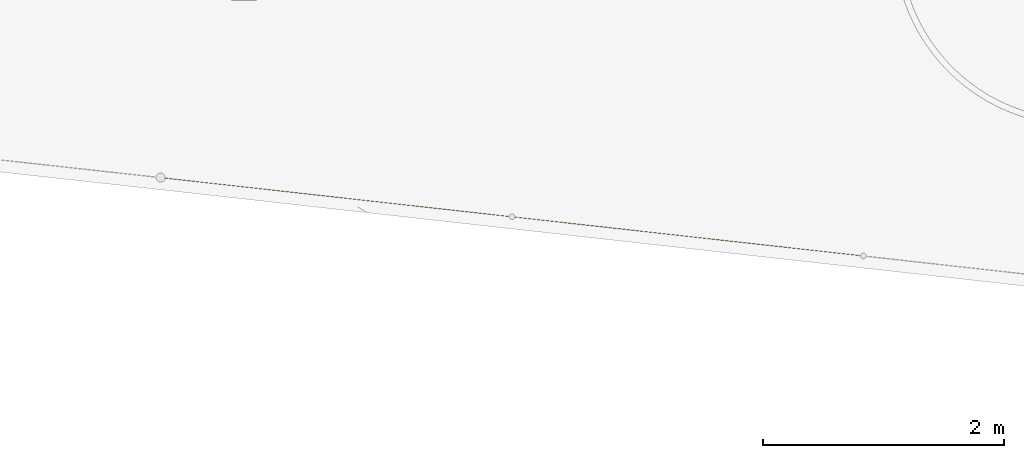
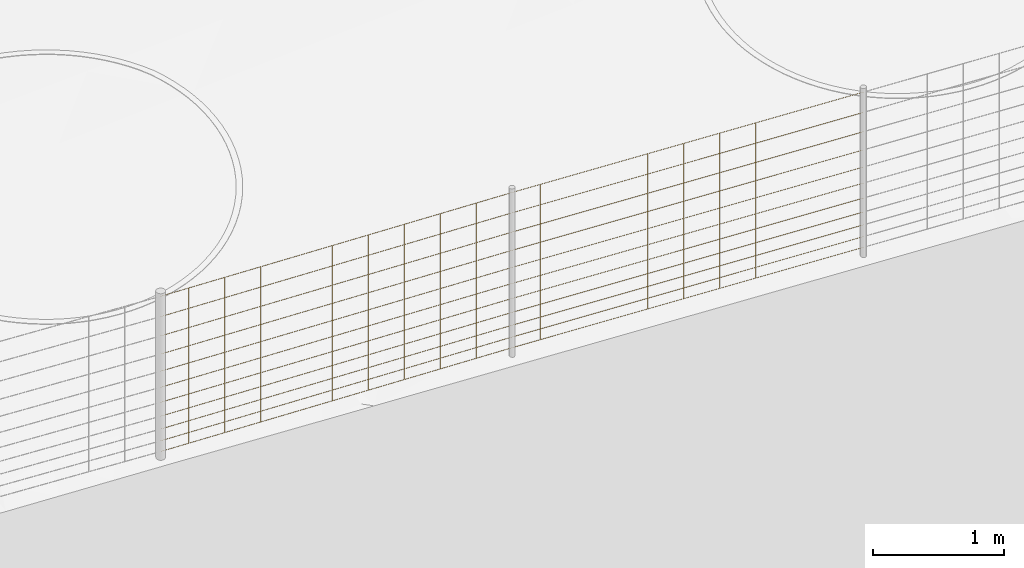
# Not in any storey, part 36 of 72: 2 railings.
"""IFC4 model written with IfcOpenShell, lengths in metres."""

from ifc_helpers import new_model, si_unit, direction, frame, origin_with_axes, place, context, subcontext, project, spatial, polygons, material, element, save


model = new_model("IFC4")

# Units and contexts
model_context = context("Model", 3, precision=1e-05, world=origin_with_axes(), true_north=direction((0.0, 1.0)))
body_context = subcontext(model_context, "Body", "Model", "MODEL_VIEW")
ifc_project = project(units=[si_unit("AREAUNIT", "SQUARE_METRE"), si_unit("VOLUMEUNIT", "CUBIC_METRE"), si_unit("LENGTHUNIT", "METRE")], contexts=[model_context])

# Site
site_placement = place(None, origin_with_axes())
site = spatial("IfcSite", under=ifc_project, at=site_placement, Name="Lares · Rua das Mercês · artigo 4771")

# Railings
ifc_material = material(Name="Aço galvanizado / Stahl verzinkt", Category="steel")
railing_1_placement = place(site_placement, frame((0.0, 0.0, 0.0), z_axis=(0.0, 0.0, 1.0), x_axis=(1.0, -1.03767253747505e-17, 0.0)))
element("IfcRailing", 1, at=railing_1_placement, inside=site, material=ifc_material, Name="Vedação · rede ovelheira 1.025", ObjectType="SHEEP_WIRE_FENCE", PredefinedType="USERDEFINED", context=body_context, shape_type="Tessellation", body=[
    polygons([(29.2923200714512, -0.365660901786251, 12.8845290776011), (29.2922117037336, -0.367158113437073, 12.8830302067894), (29.2919876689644, -0.368642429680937, 12.8845290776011), (29.2920960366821, -0.367145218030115, 12.8860279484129), (26.3756527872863, -0.0404895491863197, 12.7705914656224), (26.3755444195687, -0.0419867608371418, 12.7690925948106), (26.3753203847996, -0.0434710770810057, 12.7705914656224), (26.3754287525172, -0.0419738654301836, 12.7720903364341), (29.2923200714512, -0.365660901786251, 12.9845290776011), (29.2922117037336, -0.367158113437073, 12.9830302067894), (29.2919876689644, -0.368642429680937, 12.9845290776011), (29.2920960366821, -0.367145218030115, 12.9860279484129), (26.3756527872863, -0.0404895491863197, 12.8705914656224), (26.3755444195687, -0.0419867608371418, 12.8690925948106), (26.3753203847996, -0.0434710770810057, 12.8705914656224), (26.3754287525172, -0.0419738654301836, 12.8720903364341), (29.2923200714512, -0.365660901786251, 13.0945290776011), (29.2922117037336, -0.367158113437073, 13.0930302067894), (29.2919876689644, -0.368642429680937, 13.0945290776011), (29.2920960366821, -0.367145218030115, 13.0960279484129), (26.3756527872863, -0.0404895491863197, 12.9805914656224), (26.3755444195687, -0.0419867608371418, 12.9790925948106), (26.3753203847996, -0.0434710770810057, 12.9805914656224), (26.3754287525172, -0.0419738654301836, 12.9820903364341), (29.2923200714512, -0.365660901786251, 13.2145290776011), (29.2922117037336, -0.367158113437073, 13.2130302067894), (29.2919876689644, -0.368642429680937, 13.2145290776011), (29.2920960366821, -0.367145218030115, 13.2160279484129), (26.3756527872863, -0.0404895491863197, 13.1005914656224), (26.3755444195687, -0.0419867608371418, 13.0990925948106), (26.3753203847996, -0.0434710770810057, 13.1005914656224), (26.3754287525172, -0.0419738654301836, 13.1020903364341), (29.2923200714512, -0.365660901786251, 13.3445290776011), (29.2922117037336, -0.367158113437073, 13.3430302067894), (29.2919876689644, -0.368642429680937, 13.3445290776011), (29.2920960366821, -0.367145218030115, 13.3460279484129), (26.3756527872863, -0.0404895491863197, 13.2305914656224), (26.3755444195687, -0.0419867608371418, 13.2290925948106), (26.3753203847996, -0.0434710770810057, 13.2305914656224), (26.3754287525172, -0.0419738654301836, 13.2320903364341), (29.2923200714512, -0.365660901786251, 13.4845290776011), (29.2922117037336, -0.367158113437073, 13.4830302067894), (29.2919876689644, -0.368642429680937, 13.4845290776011), (29.2920960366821, -0.367145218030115, 13.4860279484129), (26.3756527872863, -0.0404895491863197, 13.3705914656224), (26.3755444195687, -0.0419867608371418, 13.3690925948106), (26.3753203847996, -0.0434710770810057, 13.3705914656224), (26.3754287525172, -0.0419738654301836, 13.3720903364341), (29.2923200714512, -0.365660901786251, 13.6345290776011), (29.2922117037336, -0.367158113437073, 13.6330302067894), (29.2919876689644, -0.368642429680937, 13.6345290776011), (29.2920960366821, -0.367145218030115, 13.6360279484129), (26.3756527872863, -0.0404895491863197, 13.5205914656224), (26.3755444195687, -0.0419867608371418, 13.5190925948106), (26.3753203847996, -0.0434710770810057, 13.5205914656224), (26.3754287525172, -0.0419738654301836, 13.5220903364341), (29.2923200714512, -0.365660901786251, 13.7945290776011), (29.2922117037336, -0.367158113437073, 13.7930302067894), (29.2919876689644, -0.368642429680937, 13.7945290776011), (29.2920960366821, -0.367145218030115, 13.7960279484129), (26.3756527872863, -0.0404895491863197, 13.6805914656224), (26.3755444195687, -0.0419867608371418, 13.6790925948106), (26.3753203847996, -0.0434710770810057, 13.6805914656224), (26.3754287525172, -0.0419738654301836, 13.6820903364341), (29.2923200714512, -0.365660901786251, 13.9645290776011), (29.2922117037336, -0.367158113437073, 13.9630302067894), (29.2919876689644, -0.368642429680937, 13.9645290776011), (29.2920960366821, -0.367145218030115, 13.9660279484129), (26.3756527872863, -0.0404895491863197, 13.8505914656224), (26.3755444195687, -0.0419867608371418, 13.8490925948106), (26.3753203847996, -0.0434710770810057, 13.8505914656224), (26.3754287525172, -0.0419738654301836, 13.8520903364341), (29.2923200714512, -0.365660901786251, 14.1445290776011), (29.2922117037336, -0.367158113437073, 14.1430302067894), (29.2919876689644, -0.368642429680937, 14.1445290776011), (29.2920960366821, -0.367145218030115, 14.1460279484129), (26.3756527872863, -0.0404895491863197, 14.0305914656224), (26.3755444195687, -0.0419867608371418, 14.0290925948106), (26.3753203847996, -0.0434710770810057, 14.0305914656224), (26.3754287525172, -0.0419738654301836, 14.0320903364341), (29.2923200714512, -0.365660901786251, 14.3345290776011), (29.2922117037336, -0.367158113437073, 14.3330302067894), (29.2919876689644, -0.368642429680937, 14.3345290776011), (29.2920960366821, -0.367145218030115, 14.3360279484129), (26.3756527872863, -0.0404895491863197, 14.2205914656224), (26.3755444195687, -0.0419867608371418, 14.2190925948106), (26.3753203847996, -0.0434710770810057, 14.2205914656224), (26.3754287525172, -0.0419738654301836, 14.2220903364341), (28.9940010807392, -0.332411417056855, 12.8728819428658), (28.9925010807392, -0.333911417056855, 12.8728819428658), (28.9940010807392, -0.335411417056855, 12.8728819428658), (28.9955010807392, -0.333911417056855, 12.8728819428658), (28.9940010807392, -0.332411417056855, 14.3228819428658), (28.9925010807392, -0.333911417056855, 14.3228819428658), (28.9940010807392, -0.335411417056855, 14.3228819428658), (28.9955010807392, -0.333911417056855, 14.3228819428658), (28.6958482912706, -0.299171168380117, 12.8612348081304), (28.6943482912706, -0.300671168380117, 12.8612348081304), (28.6958482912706, -0.302171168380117, 12.8612348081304), (28.6973482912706, -0.300671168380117, 12.8612348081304), (28.6958482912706, -0.299171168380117, 14.3112348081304), (28.6943482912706, -0.300671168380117, 14.3112348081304), (28.6958482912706, -0.302171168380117, 14.3112348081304), (28.6973482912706, -0.300671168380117, 14.3112348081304), (28.397695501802, -0.265930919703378, 12.8495876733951), (28.396195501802, -0.267430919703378, 12.8495876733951), (28.397695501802, -0.268930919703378, 12.8495876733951), (28.399195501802, -0.267430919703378, 12.8495876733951), (28.397695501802, -0.265930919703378, 14.2995876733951), (28.396195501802, -0.267430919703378, 14.2995876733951), (28.397695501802, -0.268930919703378, 14.2995876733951), (28.399195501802, -0.267430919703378, 14.2995876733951), (28.0995427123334, -0.232690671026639, 12.8379405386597), (28.0980427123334, -0.234190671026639, 12.8379405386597), (28.0995427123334, -0.235690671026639, 12.8379405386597), (28.1010427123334, -0.234190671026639, 12.8379405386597), (28.0995427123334, -0.232690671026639, 14.2879405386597), (28.0980427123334, -0.234190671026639, 14.2879405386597), (28.0995427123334, -0.235690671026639, 14.2879405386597), (28.1010427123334, -0.234190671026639, 14.2879405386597), (27.8013899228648, -0.1994504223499, 12.8262934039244), (27.7998899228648, -0.2009504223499, 12.8262934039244), (27.8013899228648, -0.2024504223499, 12.8262934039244), (27.8028899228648, -0.2009504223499, 12.8262934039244), (27.8013899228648, -0.1994504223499, 14.2762934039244), (27.7998899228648, -0.2009504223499, 14.2762934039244), (27.8013899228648, -0.2024504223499, 14.2762934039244), (27.8028899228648, -0.2009504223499, 14.2762934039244), (27.5032371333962, -0.166210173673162, 12.814646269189), (27.5017371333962, -0.167710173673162, 12.814646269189), (27.5032371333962, -0.169210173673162, 12.814646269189), (27.5047371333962, -0.167710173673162, 12.814646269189), (27.5032371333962, -0.166210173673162, 14.264646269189), (27.5017371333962, -0.167710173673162, 14.264646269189), (27.5032371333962, -0.169210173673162, 14.264646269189), (27.5047371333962, -0.167710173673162, 14.264646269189), (27.2050843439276, -0.132969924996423, 12.8029991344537), (27.2035843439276, -0.134469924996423, 12.8029991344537), (27.2050843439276, -0.135969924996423, 12.8029991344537), (27.2065843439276, -0.134469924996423, 12.8029991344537), (27.2050843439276, -0.132969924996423, 14.2529991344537), (27.2035843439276, -0.134469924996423, 14.2529991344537), (27.2050843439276, -0.135969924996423, 14.2529991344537), (27.2065843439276, -0.134469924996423, 14.2529991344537), (26.906931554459, -0.099729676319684, 12.7913519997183), (26.905431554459, -0.101229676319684, 12.7913519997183), (26.906931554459, -0.102729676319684, 12.7913519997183), (26.908431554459, -0.101229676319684, 12.7913519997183), (26.906931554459, -0.099729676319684, 14.2413519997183), (26.905431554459, -0.101229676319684, 14.2413519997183), (26.906931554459, -0.102729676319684, 14.2413519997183), (26.908431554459, -0.101229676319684, 14.2413519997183), (26.6087787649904, -0.0664894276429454, 12.779704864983), (26.6072787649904, -0.0679894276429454, 12.779704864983), (26.6087787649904, -0.0694894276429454, 12.779704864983), (26.6102787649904, -0.0679894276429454, 12.779704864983), (26.6087787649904, -0.0664894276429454, 14.229704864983), (26.6072787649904, -0.0679894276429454, 14.229704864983), (26.6087787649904, -0.0694894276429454, 14.229704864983), (26.6102787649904, -0.0679894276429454, 14.229704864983)], [[[4, 3, 2, 1]], [[5, 6, 7, 8]], [[1, 2, 6, 5]], [[2, 3, 7, 6]], [[3, 4, 8, 7]], [[4, 1, 5, 8]], [[12, 11, 10, 9]], [[13, 14, 15, 16]], [[9, 10, 14, 13]], [[10, 11, 15, 14]], [[11, 12, 16, 15]], [[12, 9, 13, 16]], [[20, 19, 18, 17]], [[21, 22, 23, 24]], [[17, 18, 22, 21]], [[18, 19, 23, 22]], [[19, 20, 24, 23]], [[20, 17, 21, 24]], [[28, 27, 26, 25]], [[29, 30, 31, 32]], [[25, 26, 30, 29]], [[26, 27, 31, 30]], [[27, 28, 32, 31]], [[28, 25, 29, 32]], [[36, 35, 34, 33]], [[37, 38, 39, 40]], [[33, 34, 38, 37]], [[34, 35, 39, 38]], [[35, 36, 40, 39]], [[36, 33, 37, 40]], [[44, 43, 42, 41]], [[45, 46, 47, 48]], [[41, 42, 46, 45]], [[42, 43, 47, 46]], [[43, 44, 48, 47]], [[44, 41, 45, 48]], [[52, 51, 50, 49]], [[53, 54, 55, 56]], [[49, 50, 54, 53]], [[50, 51, 55, 54]], [[51, 52, 56, 55]], [[52, 49, 53, 56]], [[60, 59, 58, 57]], [[61, 62, 63, 64]], [[57, 58, 62, 61]], [[58, 59, 63, 62]], [[59, 60, 64, 63]], [[60, 57, 61, 64]], [[68, 67, 66, 65]], [[69, 70, 71, 72]], [[65, 66, 70, 69]], [[66, 67, 71, 70]], [[67, 68, 72, 71]], [[68, 65, 69, 72]], [[76, 75, 74, 73]], [[77, 78, 79, 80]], [[73, 74, 78, 77]], [[74, 75, 79, 78]], [[75, 76, 80, 79]], [[76, 73, 77, 80]], [[84, 83, 82, 81]], [[85, 86, 87, 88]], [[81, 82, 86, 85]], [[82, 83, 87, 86]], [[83, 84, 88, 87]], [[84, 81, 85, 88]], [[92, 91, 90, 89]], [[93, 94, 95, 96]], [[89, 90, 94, 93]], [[90, 91, 95, 94]], [[91, 92, 96, 95]], [[92, 89, 93, 96]], [[100, 99, 98, 97]], [[101, 102, 103, 104]], [[97, 98, 102, 101]], [[98, 99, 103, 102]], [[99, 100, 104, 103]], [[100, 97, 101, 104]], [[108, 107, 106, 105]], [[109, 110, 111, 112]], [[105, 106, 110, 109]], [[106, 107, 111, 110]], [[107, 108, 112, 111]], [[108, 105, 109, 112]], [[116, 115, 114, 113]], [[117, 118, 119, 120]], [[113, 114, 118, 117]], [[114, 115, 119, 118]], [[115, 116, 120, 119]], [[116, 113, 117, 120]], [[124, 123, 122, 121]], [[125, 126, 127, 128]], [[121, 122, 126, 125]], [[122, 123, 127, 126]], [[123, 124, 128, 127]], [[124, 121, 125, 128]], [[132, 131, 130, 129]], [[133, 134, 135, 136]], [[129, 130, 134, 133]], [[130, 131, 135, 134]], [[131, 132, 136, 135]], [[132, 129, 133, 136]], [[140, 139, 138, 137]], [[141, 142, 143, 144]], [[137, 138, 142, 141]], [[138, 139, 143, 142]], [[139, 140, 144, 143]], [[140, 137, 141, 144]], [[148, 147, 146, 145]], [[149, 150, 151, 152]], [[145, 146, 150, 149]], [[146, 147, 151, 150]], [[147, 148, 152, 151]], [[148, 145, 149, 152]], [[156, 155, 154, 153]], [[157, 158, 159, 160]], [[153, 154, 158, 157]], [[154, 155, 159, 158]], [[155, 156, 160, 159]], [[156, 153, 157, 160]]]),
])
railing_2_placement = place(site_placement, frame((0.0, 0.0, 0.0), z_axis=(0.0, 0.0, 1.0), x_axis=(1.0, -1.03767253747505e-17, 0.0)))
element("IfcRailing", 2, at=railing_2_placement, inside=site, material=ifc_material, Name="Vedação · rede ovelheira 1.026", ObjectType="SHEEP_WIRE_FENCE", PredefinedType="USERDEFINED", context=body_context, shape_type="Tessellation", body=[
    polygons([(26.3756527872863, -0.0404895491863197, 12.7705914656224), (26.3755604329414, -0.0419885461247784, 12.7690933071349), (26.3753203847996, -0.0434710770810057, 12.7705914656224), (26.3754127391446, -0.0419720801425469, 12.7720896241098), (23.4589855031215, 0.284681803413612, 12.6250367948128), (23.4588931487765, 0.283182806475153, 12.6235386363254), (23.4586531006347, 0.281700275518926, 12.6250367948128), (23.4587454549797, 0.283199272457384, 12.6265349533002), (26.3756527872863, -0.0404895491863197, 12.8705914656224), (26.3755604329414, -0.0419885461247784, 12.8690933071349), (26.3753203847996, -0.0434710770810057, 12.8705914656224), (26.3754127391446, -0.0419720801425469, 12.8720896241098), (23.4589855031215, 0.284681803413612, 12.7250367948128), (23.4588931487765, 0.283182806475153, 12.7235386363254), (23.4586531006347, 0.281700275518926, 12.7250367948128), (23.4587454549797, 0.283199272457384, 12.7265349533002), (26.3756527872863, -0.0404895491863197, 12.9805914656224), (26.3755604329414, -0.0419885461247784, 12.9790933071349), (26.3753203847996, -0.0434710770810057, 12.9805914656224), (26.3754127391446, -0.0419720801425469, 12.9820896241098), (23.4589855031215, 0.284681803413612, 12.8350367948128), (23.4588931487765, 0.283182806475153, 12.8335386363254), (23.4586531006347, 0.281700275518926, 12.8350367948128), (23.4587454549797, 0.283199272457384, 12.8365349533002), (26.3756527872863, -0.0404895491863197, 13.1005914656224), (26.3755604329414, -0.0419885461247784, 13.0990933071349), (26.3753203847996, -0.0434710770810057, 13.1005914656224), (26.3754127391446, -0.0419720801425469, 13.1020896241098), (23.4589855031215, 0.284681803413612, 12.9550367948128), (23.4588931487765, 0.283182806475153, 12.9535386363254), (23.4586531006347, 0.281700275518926, 12.9550367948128), (23.4587454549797, 0.283199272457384, 12.9565349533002), (26.3756527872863, -0.0404895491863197, 13.2305914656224), (26.3755604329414, -0.0419885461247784, 13.2290933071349), (26.3753203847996, -0.0434710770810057, 13.2305914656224), (26.3754127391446, -0.0419720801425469, 13.2320896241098), (23.4589855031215, 0.284681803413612, 13.0850367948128), (23.4588931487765, 0.283182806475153, 13.0835386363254), (23.4586531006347, 0.281700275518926, 13.0850367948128), (23.4587454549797, 0.283199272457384, 13.0865349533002), (26.3756527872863, -0.0404895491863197, 13.3705914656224), (26.3755604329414, -0.0419885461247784, 13.3690933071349), (26.3753203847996, -0.0434710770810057, 13.3705914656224), (26.3754127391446, -0.0419720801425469, 13.3720896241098), (23.4589855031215, 0.284681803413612, 13.2250367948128), (23.4588931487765, 0.283182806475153, 13.2235386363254), (23.4586531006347, 0.281700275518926, 13.2250367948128), (23.4587454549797, 0.283199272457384, 13.2265349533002), (26.3756527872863, -0.0404895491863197, 13.5205914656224), (26.3755604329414, -0.0419885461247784, 13.5190933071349), (26.3753203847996, -0.0434710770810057, 13.5205914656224), (26.3754127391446, -0.0419720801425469, 13.5220896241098), (23.4589855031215, 0.284681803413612, 13.3750367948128), (23.4588931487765, 0.283182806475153, 13.3735386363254), (23.4586531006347, 0.281700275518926, 13.3750367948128), (23.4587454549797, 0.283199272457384, 13.3765349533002), (26.3756527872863, -0.0404895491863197, 13.6805914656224), (26.3755604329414, -0.0419885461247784, 13.6790933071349), (26.3753203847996, -0.0434710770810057, 13.6805914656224), (26.3754127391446, -0.0419720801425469, 13.6820896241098), (23.4589855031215, 0.284681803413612, 13.5350367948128), (23.4588931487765, 0.283182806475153, 13.5335386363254), (23.4586531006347, 0.281700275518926, 13.5350367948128), (23.4587454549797, 0.283199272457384, 13.5365349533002), (26.3756527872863, -0.0404895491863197, 13.8505914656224), (26.3755604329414, -0.0419885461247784, 13.8490933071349), (26.3753203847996, -0.0434710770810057, 13.8505914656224), (26.3754127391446, -0.0419720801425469, 13.8520896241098), (23.4589855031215, 0.284681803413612, 13.7050367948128), (23.4588931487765, 0.283182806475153, 13.7035386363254), (23.4586531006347, 0.281700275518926, 13.7050367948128), (23.4587454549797, 0.283199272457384, 13.7065349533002), (26.3756527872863, -0.0404895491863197, 14.0305914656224), (26.3755604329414, -0.0419885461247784, 14.0290933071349), (26.3753203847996, -0.0434710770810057, 14.0305914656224), (26.3754127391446, -0.0419720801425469, 14.0320896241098), (23.4589855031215, 0.284681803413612, 13.8850367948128), (23.4588931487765, 0.283182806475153, 13.8835386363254), (23.4586531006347, 0.281700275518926, 13.8850367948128), (23.4587454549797, 0.283199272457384, 13.8865349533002), (26.3756527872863, -0.0404895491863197, 14.2205914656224), (26.3755604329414, -0.0419885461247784, 14.2190933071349), (26.3753203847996, -0.0434710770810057, 14.2205914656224), (26.3754127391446, -0.0419720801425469, 14.2220896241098), (23.4589855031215, 0.284681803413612, 14.0750367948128), (23.4588931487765, 0.283182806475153, 14.0735386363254), (23.4586531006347, 0.281700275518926, 14.0750367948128), (23.4587454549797, 0.283199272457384, 14.0765349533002), (26.0773337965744, -0.0072400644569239, 12.7557123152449), (26.0758337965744, -0.0087400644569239, 12.7557123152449), (26.0773337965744, -0.0102400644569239, 12.7557123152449), (26.0788337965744, -0.0087400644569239, 12.7557123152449), (26.0773337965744, -0.0072400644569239, 14.2057123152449), (26.0758337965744, -0.0087400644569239, 14.2057123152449), (26.0773337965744, -0.0102400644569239, 14.2057123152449), (26.0788337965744, -0.0087400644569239, 14.2057123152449), (25.7791810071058, 0.0260001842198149, 12.7408331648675), (25.7776810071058, 0.0245001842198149, 12.7408331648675), (25.7791810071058, 0.0230001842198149, 12.7408331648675), (25.7806810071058, 0.0245001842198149, 12.7408331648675), (25.7791810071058, 0.0260001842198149, 14.1908331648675), (25.7776810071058, 0.0245001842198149, 14.1908331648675), (25.7791810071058, 0.0230001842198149, 14.1908331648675), (25.7806810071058, 0.0245001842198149, 14.1908331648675), (25.4810282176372, 0.0592404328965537, 12.72595401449), (25.4795282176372, 0.0577404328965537, 12.72595401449), (25.4810282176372, 0.0562404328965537, 12.72595401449), (25.4825282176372, 0.0577404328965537, 12.72595401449), (25.4810282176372, 0.0592404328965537, 14.17595401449), (25.4795282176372, 0.0577404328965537, 14.17595401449), (25.4810282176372, 0.0562404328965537, 14.17595401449), (25.4825282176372, 0.0577404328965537, 14.17595401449), (25.1828754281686, 0.0924806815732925, 12.7110748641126), (25.1813754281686, 0.0909806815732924, 12.7110748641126), (25.1828754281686, 0.0894806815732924, 12.7110748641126), (25.1843754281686, 0.0909806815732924, 12.7110748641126), (25.1828754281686, 0.0924806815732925, 14.1610748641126), (25.1813754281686, 0.0909806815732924, 14.1610748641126), (25.1828754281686, 0.0894806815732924, 14.1610748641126), (25.1843754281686, 0.0909806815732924, 14.1610748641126), (24.8847226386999, 0.125720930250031, 12.6961957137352), (24.8832226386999, 0.124220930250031, 12.6961957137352), (24.8847226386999, 0.122720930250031, 12.6961957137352), (24.8862226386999, 0.124220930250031, 12.6961957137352), (24.8847226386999, 0.125720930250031, 14.1461957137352), (24.8832226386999, 0.124220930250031, 14.1461957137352), (24.8847226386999, 0.122720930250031, 14.1461957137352), (24.8862226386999, 0.124220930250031, 14.1461957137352), (24.5865698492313, 0.15896117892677, 12.6813165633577), (24.5850698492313, 0.15746117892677, 12.6813165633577), (24.5865698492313, 0.15596117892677, 12.6813165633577), (24.5880698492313, 0.15746117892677, 12.6813165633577), (24.5865698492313, 0.15896117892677, 14.1313165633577), (24.5850698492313, 0.15746117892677, 14.1313165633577), (24.5865698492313, 0.15596117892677, 14.1313165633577), (24.5880698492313, 0.15746117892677, 14.1313165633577), (24.2884170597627, 0.192201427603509, 12.6664374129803), (24.2869170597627, 0.190701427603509, 12.6664374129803), (24.2884170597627, 0.189201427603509, 12.6664374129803), (24.2899170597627, 0.190701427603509, 12.6664374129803), (24.2884170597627, 0.192201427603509, 14.1164374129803), (24.2869170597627, 0.190701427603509, 14.1164374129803), (24.2884170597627, 0.189201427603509, 14.1164374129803), (24.2899170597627, 0.190701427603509, 14.1164374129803), (23.9902642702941, 0.225441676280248, 12.6515582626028), (23.9887642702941, 0.223941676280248, 12.6515582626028), (23.9902642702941, 0.222441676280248, 12.6515582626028), (23.9917642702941, 0.223941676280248, 12.6515582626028), (23.9902642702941, 0.225441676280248, 14.1015582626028), (23.9887642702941, 0.223941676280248, 14.1015582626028), (23.9902642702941, 0.222441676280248, 14.1015582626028), (23.9917642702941, 0.223941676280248, 14.1015582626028), (23.6921114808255, 0.258681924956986, 12.6366791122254), (23.6906114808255, 0.257181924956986, 12.6366791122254), (23.6921114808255, 0.255681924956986, 12.6366791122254), (23.6936114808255, 0.257181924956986, 12.6366791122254), (23.6921114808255, 0.258681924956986, 14.0866791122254), (23.6906114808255, 0.257181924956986, 14.0866791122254), (23.6921114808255, 0.255681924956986, 14.0866791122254), (23.6936114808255, 0.257181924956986, 14.0866791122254)], [[[4, 3, 2, 1]], [[5, 6, 7, 8]], [[1, 2, 6, 5]], [[2, 3, 7, 6]], [[3, 4, 8, 7]], [[4, 1, 5, 8]], [[12, 11, 10, 9]], [[13, 14, 15, 16]], [[9, 10, 14, 13]], [[10, 11, 15, 14]], [[11, 12, 16, 15]], [[12, 9, 13, 16]], [[20, 19, 18, 17]], [[21, 22, 23, 24]], [[17, 18, 22, 21]], [[18, 19, 23, 22]], [[19, 20, 24, 23]], [[20, 17, 21, 24]], [[28, 27, 26, 25]], [[29, 30, 31, 32]], [[25, 26, 30, 29]], [[26, 27, 31, 30]], [[27, 28, 32, 31]], [[28, 25, 29, 32]], [[36, 35, 34, 33]], [[37, 38, 39, 40]], [[33, 34, 38, 37]], [[34, 35, 39, 38]], [[35, 36, 40, 39]], [[36, 33, 37, 40]], [[44, 43, 42, 41]], [[45, 46, 47, 48]], [[41, 42, 46, 45]], [[42, 43, 47, 46]], [[43, 44, 48, 47]], [[44, 41, 45, 48]], [[52, 51, 50, 49]], [[53, 54, 55, 56]], [[49, 50, 54, 53]], [[50, 51, 55, 54]], [[51, 52, 56, 55]], [[52, 49, 53, 56]], [[60, 59, 58, 57]], [[61, 62, 63, 64]], [[57, 58, 62, 61]], [[58, 59, 63, 62]], [[59, 60, 64, 63]], [[60, 57, 61, 64]], [[68, 67, 66, 65]], [[69, 70, 71, 72]], [[65, 66, 70, 69]], [[66, 67, 71, 70]], [[67, 68, 72, 71]], [[68, 65, 69, 72]], [[76, 75, 74, 73]], [[77, 78, 79, 80]], [[73, 74, 78, 77]], [[74, 75, 79, 78]], [[75, 76, 80, 79]], [[76, 73, 77, 80]], [[84, 83, 82, 81]], [[85, 86, 87, 88]], [[81, 82, 86, 85]], [[82, 83, 87, 86]], [[83, 84, 88, 87]], [[84, 81, 85, 88]], [[92, 91, 90, 89]], [[93, 94, 95, 96]], [[89, 90, 94, 93]], [[90, 91, 95, 94]], [[91, 92, 96, 95]], [[92, 89, 93, 96]], [[100, 99, 98, 97]], [[101, 102, 103, 104]], [[97, 98, 102, 101]], [[98, 99, 103, 102]], [[99, 100, 104, 103]], [[100, 97, 101, 104]], [[108, 107, 106, 105]], [[109, 110, 111, 112]], [[105, 106, 110, 109]], [[106, 107, 111, 110]], [[107, 108, 112, 111]], [[108, 105, 109, 112]], [[116, 115, 114, 113]], [[117, 118, 119, 120]], [[113, 114, 118, 117]], [[114, 115, 119, 118]], [[115, 116, 120, 119]], [[116, 113, 117, 120]], [[124, 123, 122, 121]], [[125, 126, 127, 128]], [[121, 122, 126, 125]], [[122, 123, 127, 126]], [[123, 124, 128, 127]], [[124, 121, 125, 128]], [[132, 131, 130, 129]], [[133, 134, 135, 136]], [[129, 130, 134, 133]], [[130, 131, 135, 134]], [[131, 132, 136, 135]], [[132, 129, 133, 136]], [[140, 139, 138, 137]], [[141, 142, 143, 144]], [[137, 138, 142, 141]], [[138, 139, 143, 142]], [[139, 140, 144, 143]], [[140, 137, 141, 144]], [[148, 147, 146, 145]], [[149, 150, 151, 152]], [[145, 146, 150, 149]], [[146, 147, 151, 150]], [[147, 148, 152, 151]], [[148, 145, 149, 152]], [[156, 155, 154, 153]], [[157, 158, 159, 160]], [[153, 154, 158, 157]], [[154, 155, 159, 158]], [[155, 156, 160, 159]], [[156, 153, 157, 160]]]),
])

save(model, "model.ifc")
